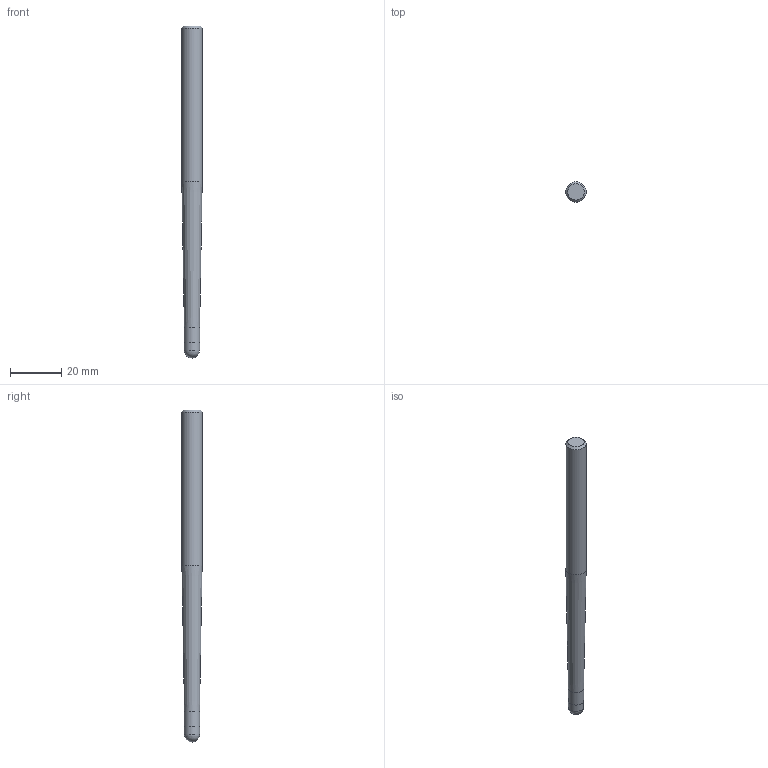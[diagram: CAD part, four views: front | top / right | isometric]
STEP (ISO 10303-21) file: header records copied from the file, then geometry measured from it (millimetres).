
FILE_DESCRIPTION((''),'2;1');
FILE_NAME('C:\Users\nsx150\AppData\Local\Temp\Mastercam 2021\SNAKH10GOD\TEMP.step','2021-10-21T13:33:58',(''),(''),'STEP Write','Mastercam 2021 ... CNC Software, Inc.','');
FILE_SCHEMA(('AUTOMOTIVE_DESIGN'));
Length unit declared in the file: millimetre
Products named in the file (1): None
Bounding box: 8 x 8 x 130 mm (x, y, z)
Volume: 5568.8 mm3; surface area: 3104.2 mm2
Topology: 2 solids, 2 shells, 9 faces, 14 edges, 8 vertices
Faces by surface type: plane 3, cylinder 3, cone 2, sphere 1
Full cylindrical faces by diameter (mm): 5.98 x1, 6 x1, 8 x1
Entity records: 211 total; most frequent: DIRECTION 36, CARTESIAN_POINT 25, AXIS2_PLACEMENT_3D 18, ORIENTED_EDGE 14, EDGE_LOOP 14, STYLED_ITEM 12, ADVANCED_FACE 9, FACE_BOUND 8
